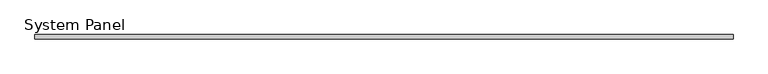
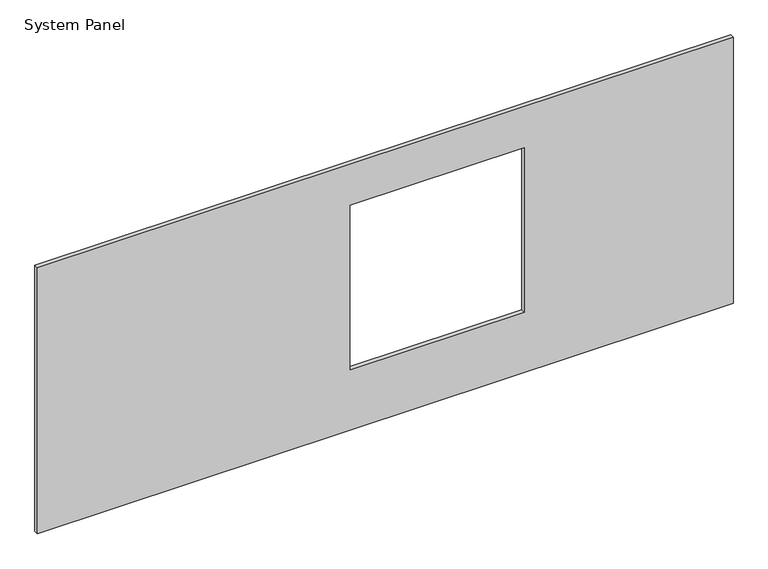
"""IFC4 building model written with IfcOpenShell, lengths in millimetres: plate geometry."""

from ifc_helpers import new_model, si_unit, frame, origin, place, context, project, spatial, polyline, outline, extrude, source, transform, mapped, element, save


def system_panel_529702df(model_context):
    return source(origin(), model_context, "Body", "SweptSolid", [
        extrude(outline(polyline([(0.0, -3048.0), (0.0, 3048.0), (2463.8, 3048.0), (2463.8, -3048.0), (0.0, -3048.0)]), holes=[polyline([(558.8, 1216.5588912), (558.8, -307.4411088), (2082.8, -307.4411088), (2082.8, 1216.5588912), (558.8, 1216.5588912)])]), frame((0.0, -19.05, 0.0), z_axis=(0.0, 1.0, 0.0), x_axis=(0.0, 0.0, 1.0)), (0.0, 0.0, 1.0), 38.1),
    ])


if __name__ == "__main__":
    model = new_model("IFC4")
    model_context = context("Model", 3, world=origin())
    ifc_project = project(units=[si_unit("LENGTHUNIT", "METRE", prefix="MILLI")], contexts=[model_context])
    site = spatial("IfcSite", under=ifc_project)
    building = spatial("IfcBuilding", under=site)
    placement = place(None, origin())
    system_panel_shape = system_panel_529702df(model_context)
    element("IfcPlate", 1, ObjectType="System Panel : 1/2\" Plywood & 1\" Rigid Ins.", at=placement, inside=building, context=model_context, shape_type="MappedRepresentation", body=[
        mapped(system_panel_shape, transform((0.0, 0.0, 0.0), x_axis=(1.0, 0.0, 0.0), y_axis=(0.0, 1.0, 0.0), z_axis=(0.0, 0.0, 1.0))),
    ])
    save(model, "model.ifc")
